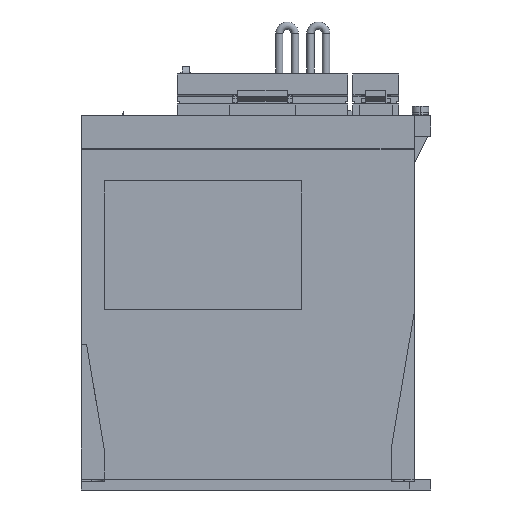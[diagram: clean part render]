
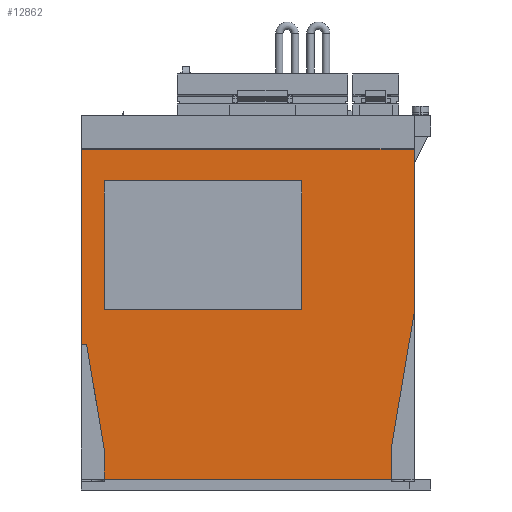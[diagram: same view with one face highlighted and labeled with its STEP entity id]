
A CAD part, left-side view. The second image highlights one B-rep face of the part: STEP entity #12862.
In plain terms, the highlighted planar face has unit normal (-1, 0, 0).
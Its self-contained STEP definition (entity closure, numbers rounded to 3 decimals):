
#11129 = VERTEX_POINT ( 'NONE', #35445 ) ;
#11189 = VERTEX_POINT ( 'NONE', #35536 ) ;
#11191 = EDGE_CURVE ( 'NONE', #11129, #11189, #35535, .T. ) ;
#12834 = EDGE_CURVE ( 'NONE', #12928, #12876, #38509, .T. ) ;
#12835 = ORIENTED_EDGE ( 'NONE', *, *, #12875, .F. ) ;
#12836 = ORIENTED_EDGE ( 'NONE', *, *, #12837, .F. ) ;
#12837 = EDGE_CURVE ( 'NONE', #11129, #12873, #38505, .T. ) ;
#12838 = VERTEX_POINT ( 'NONE', #38501 ) ;
#12839 = ORIENTED_EDGE ( 'NONE', *, *, #12840, .F. ) ;
#12840 = EDGE_CURVE ( 'NONE', #12841, #12838, #38500, .T. ) ;
#12841 = VERTEX_POINT ( 'NONE', #38496 ) ;
#12842 = ORIENTED_EDGE ( 'NONE', *, *, #12843, .F. ) ;
#12843 = EDGE_CURVE ( 'NONE', #12867, #12841, #38495, .T. ) ;
#12844 = EDGE_LOOP ( 'NONE', ( #12845, #12846, #12849, #12920, #12922, #12926, #12929, #12835, #12836 ) ) ;
#12845 = ORIENTED_EDGE ( 'NONE', *, *, #11191, .T. ) ;
#12846 = ORIENTED_EDGE ( 'NONE', *, *, #12847, .T. ) ;
#12847 = EDGE_CURVE ( 'NONE', #11189, #12848, #38489, .T. ) ;
#12848 = VERTEX_POINT ( 'NONE', #38485 ) ;
#12849 = ORIENTED_EDGE ( 'NONE', *, *, #12850, .F. ) ;
#12850 = EDGE_CURVE ( 'NONE', #12851, #12848, #38483, .T. ) ;
#12851 = VERTEX_POINT ( 'NONE', #38479 ) ;
#12852 = VERTEX_POINT ( 'NONE', #38478 ) ;
#12862 = ADVANCED_FACE ( 'NONE', ( #38532, #38531 ), #38530, .F. ) ;
#12863 = EDGE_LOOP ( 'NONE', ( #12864, #12868, #12839, #12842 ) ) ;
#12864 = ORIENTED_EDGE ( 'NONE', *, *, #12865, .F. ) ;
#12865 = EDGE_CURVE ( 'NONE', #12866, #12867, #38525, .T. ) ;
#12866 = VERTEX_POINT ( 'NONE', #38521 ) ;
#12867 = VERTEX_POINT ( 'NONE', #38520 ) ;
#12868 = ORIENTED_EDGE ( 'NONE', *, *, #12869, .F. ) ;
#12869 = EDGE_CURVE ( 'NONE', #12838, #12866, #38519, .T. ) ;
#12873 = VERTEX_POINT ( 'NONE', #38578 ) ;
#12875 = EDGE_CURVE ( 'NONE', #12873, #12876, #38576, .T. ) ;
#12876 = VERTEX_POINT ( 'NONE', #38572 ) ;
#12920 = ORIENTED_EDGE ( 'NONE', *, *, #12921, .T. ) ;
#12921 = EDGE_CURVE ( 'NONE', #12851, #12852, #38632, .T. ) ;
#12922 = ORIENTED_EDGE ( 'NONE', *, *, #12923, .T. ) ;
#12923 = EDGE_CURVE ( 'NONE', #12852, #12925, #38627, .T. ) ;
#12925 = VERTEX_POINT ( 'NONE', #38623 ) ;
#12926 = ORIENTED_EDGE ( 'NONE', *, *, #12927, .F. ) ;
#12927 = EDGE_CURVE ( 'NONE', #12928, #12925, #38622, .T. ) ;
#12928 = VERTEX_POINT ( 'NONE', #38618 ) ;
#12929 = ORIENTED_EDGE ( 'NONE', *, *, #12834, .T. ) ;
#35445 = CARTESIAN_POINT ( 'NONE',  ( -6., 5., 163.8 ) ) ;
#35535 = LINE ( 'NONE', #35602, #35601 ) ;
#35536 = CARTESIAN_POINT ( 'NONE',  ( -6., 5., 70. ) ) ;
#35600 = DIRECTION ( 'NONE',  ( 0., 0., -1. ) ) ;
#35601 = VECTOR ( 'NONE', #35600, 1000. ) ;
#35602 = CARTESIAN_POINT ( 'NONE',  ( -6., 5., 338.642 ) ) ;
#38478 = CARTESIAN_POINT ( 'NONE',  ( -6., -6., 5.2 ) ) ;
#38479 = CARTESIAN_POINT ( 'NONE',  ( -6., -6., 20. ) ) ;
#38480 = DIRECTION ( 'NONE',  ( 0., 0.167, 0.986 ) ) ;
#38481 = VECTOR ( 'NONE', #38480, 1000. ) ;
#38482 = CARTESIAN_POINT ( 'NONE',  ( -6., -6., 20. ) ) ;
#38483 = LINE ( 'NONE', #38482, #38481 ) ;
#38485 = CARTESIAN_POINT ( 'NONE',  ( -6., 2.462, 70. ) ) ;
#38486 = DIRECTION ( 'NONE',  ( 0., -1., 0. ) ) ;
#38487 = VECTOR ( 'NONE', #38486, 1000. ) ;
#38488 = CARTESIAN_POINT ( 'NONE',  ( -6., 5., 70. ) ) ;
#38489 = LINE ( 'NONE', #38488, #38487 ) ;
#38491 = DIRECTION ( 'NONE',  ( 0., 1., 0. ) ) ;
#38492 = VECTOR ( 'NONE', #38491, 1000. ) ;
#38493 = CARTESIAN_POINT ( 'NONE',  ( -6., -6., 148.6 ) ) ;
#38495 = LINE ( 'NONE', #38493, #38492 ) ;
#38496 = CARTESIAN_POINT ( 'NONE',  ( -6., -6., 148.6 ) ) ;
#38497 = DIRECTION ( 'NONE',  ( 0., 0., -1. ) ) ;
#38498 = VECTOR ( 'NONE', #38497, 1000. ) ;
#38499 = CARTESIAN_POINT ( 'NONE',  ( -6., -6., 86.6 ) ) ;
#38500 = LINE ( 'NONE', #38499, #38498 ) ;
#38501 = CARTESIAN_POINT ( 'NONE',  ( -6., -6., 86.6 ) ) ;
#38502 = DIRECTION ( 'NONE',  ( 0., -1., 0. ) ) ;
#38503 = VECTOR ( 'NONE', #38502, 1000. ) ;
#38504 = CARTESIAN_POINT ( 'NONE',  ( -6., 5., 163.8 ) ) ;
#38505 = LINE ( 'NONE', #38504, #38503 ) ;
#38506 = DIRECTION ( 'NONE',  ( 0., -0.167, 0.986 ) ) ;
#38507 = VECTOR ( 'NONE', #38506, 1000. ) ;
#38508 = CARTESIAN_POINT ( 'NONE',  ( -6., -144., 20. ) ) ;
#38509 = LINE ( 'NONE', #38508, #38507 ) ;
#38516 = DIRECTION ( 'NONE',  ( 0., -1., 0. ) ) ;
#38517 = VECTOR ( 'NONE', #38516, 1000. ) ;
#38518 = CARTESIAN_POINT ( 'NONE',  ( -6., -6., 86.6 ) ) ;
#38519 = LINE ( 'NONE', #38518, #38517 ) ;
#38520 = CARTESIAN_POINT ( 'NONE',  ( -6., -101., 148.6 ) ) ;
#38521 = CARTESIAN_POINT ( 'NONE',  ( -6., -101., 86.6 ) ) ;
#38522 = DIRECTION ( 'NONE',  ( 0., 0., 1. ) ) ;
#38523 = VECTOR ( 'NONE', #38522, 1000. ) ;
#38524 = CARTESIAN_POINT ( 'NONE',  ( -6., -101., 86.6 ) ) ;
#38525 = LINE ( 'NONE', #38524, #38523 ) ;
#38526 = DIRECTION ( 'NONE',  ( 0., 1., 0. ) ) ;
#38527 = DIRECTION ( 'NONE',  ( 1., 0., 0. ) ) ;
#38528 = CARTESIAN_POINT ( 'NONE',  ( -6., 5., 338.642 ) ) ;
#38529 = AXIS2_PLACEMENT_3D ( 'NONE', #38528, #38527, #38526 ) ;
#38530 = PLANE ( 'NONE',  #38529 ) ;
#38531 = FACE_OUTER_BOUND ( 'NONE', #12844, .T. ) ;
#38532 = FACE_BOUND ( 'NONE', #12863, .T. ) ;
#38572 = CARTESIAN_POINT ( 'NONE',  ( -6., -155., 85. ) ) ;
#38573 = DIRECTION ( 'NONE',  ( 0., 0., -1. ) ) ;
#38574 = VECTOR ( 'NONE', #38573, 1000. ) ;
#38575 = CARTESIAN_POINT ( 'NONE',  ( -6., -155., 338.642 ) ) ;
#38576 = LINE ( 'NONE', #38575, #38574 ) ;
#38578 = CARTESIAN_POINT ( 'NONE',  ( -6., -155., 163.8 ) ) ;
#38618 = CARTESIAN_POINT ( 'NONE',  ( -6., -144., 20. ) ) ;
#38619 = DIRECTION ( 'NONE',  ( 0., 0., -1. ) ) ;
#38620 = VECTOR ( 'NONE', #38619, 1000. ) ;
#38621 = CARTESIAN_POINT ( 'NONE',  ( -6., -144., 20. ) ) ;
#38622 = LINE ( 'NONE', #38621, #38620 ) ;
#38623 = CARTESIAN_POINT ( 'NONE',  ( -6., -144., 5.2 ) ) ;
#38624 = DIRECTION ( 'NONE',  ( 0., -1., 0. ) ) ;
#38625 = VECTOR ( 'NONE', #38624, 1000. ) ;
#38626 = CARTESIAN_POINT ( 'NONE',  ( -6., -6., 5.2 ) ) ;
#38627 = LINE ( 'NONE', #38626, #38625 ) ;
#38629 = DIRECTION ( 'NONE',  ( 0., 0., -1. ) ) ;
#38630 = VECTOR ( 'NONE', #38629, 1000. ) ;
#38631 = CARTESIAN_POINT ( 'NONE',  ( -6., -6., 20. ) ) ;
#38632 = LINE ( 'NONE', #38631, #38630 ) ;
